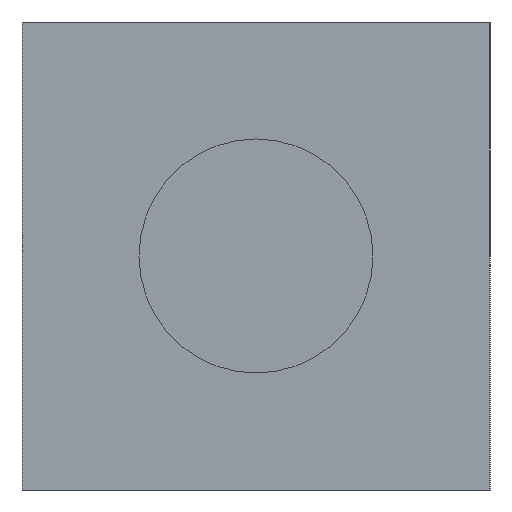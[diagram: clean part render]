
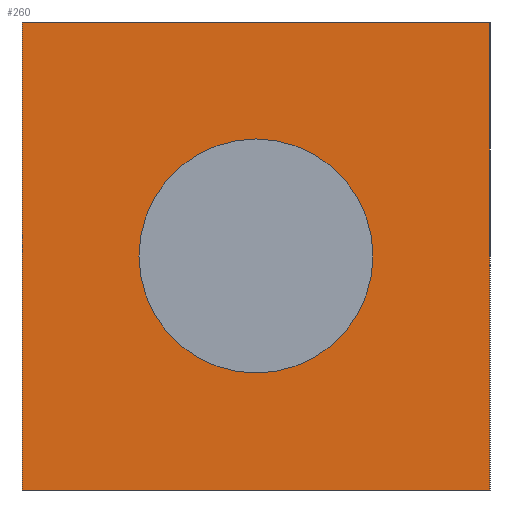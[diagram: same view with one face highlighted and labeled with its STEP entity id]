
A CAD part, left-side view. The second image highlights one B-rep face of the part: STEP entity #260.
In plain terms, the highlighted planar face has unit normal (-1, 0, 0) as drawn and (0, 0, -1) by its records, which use the part's own axes.
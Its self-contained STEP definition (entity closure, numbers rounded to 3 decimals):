
#28=FACE_BOUND('',#66,.T.);
#35=PLANE('',#331);
#49=FACE_OUTER_BOUND('',#65,.T.);
#65=EDGE_LOOP('',(#213,#214,#215,#216));
#66=EDGE_LOOP('',(#217));
#79=LINE('',#440,#105);
#82=LINE('',#446,#108);
#85=LINE('',#452,#111);
#88=LINE('',#456,#114);
#105=VECTOR('',#362,10.);
#108=VECTOR('',#367,10.);
#111=VECTOR('',#372,10.);
#114=VECTOR('',#377,10.);
#128=CIRCLE('',#324,10.);
#134=VERTEX_POINT('',#428);
#138=VERTEX_POINT('',#437);
#139=VERTEX_POINT('',#439);
#141=VERTEX_POINT('',#445);
#143=VERTEX_POINT('',#451);
#156=EDGE_CURVE('',#134,#134,#128,.T.);
#161=EDGE_CURVE('',#139,#138,#79,.T.);
#164=EDGE_CURVE('',#141,#139,#82,.T.);
#167=EDGE_CURVE('',#143,#141,#85,.T.);
#170=EDGE_CURVE('',#138,#143,#88,.T.);
#213=ORIENTED_EDGE('',*,*,#170,.T.);
#214=ORIENTED_EDGE('',*,*,#167,.T.);
#215=ORIENTED_EDGE('',*,*,#164,.T.);
#216=ORIENTED_EDGE('',*,*,#161,.T.);
#217=ORIENTED_EDGE('',*,*,#156,.T.);
#260=ADVANCED_FACE('',(#49,#28),#35,.F.);
#324=AXIS2_PLACEMENT_3D('',#429,#353,#354);
#331=AXIS2_PLACEMENT_3D('',#458,#380,#381);
#353=DIRECTION('center_axis',(0.,0.,1.));
#354=DIRECTION('ref_axis',(-1.,0.,0.));
#362=DIRECTION('',(0.,-1.,0.));
#367=DIRECTION('',(1.,0.,0.));
#372=DIRECTION('',(0.,1.,0.));
#377=DIRECTION('',(-1.,0.,0.));
#380=DIRECTION('center_axis',(0.,0.,1.));
#381=DIRECTION('ref_axis',(1.,0.,0.));
#428=CARTESIAN_POINT('',(10.,0.,-40.));
#429=CARTESIAN_POINT('Origin',(0.,0.,-40.));
#437=CARTESIAN_POINT('',(20.,-20.,-40.));
#439=CARTESIAN_POINT('',(20.,20.,-40.));
#440=CARTESIAN_POINT('',(20.,-20.,-40.));
#445=CARTESIAN_POINT('',(-20.,20.,-40.));
#446=CARTESIAN_POINT('',(20.,20.,-40.));
#451=CARTESIAN_POINT('',(-20.,-20.,-40.));
#452=CARTESIAN_POINT('',(-20.,20.,-40.));
#456=CARTESIAN_POINT('',(-20.,-20.,-40.));
#458=CARTESIAN_POINT('Origin',(0.,0.,-40.));
